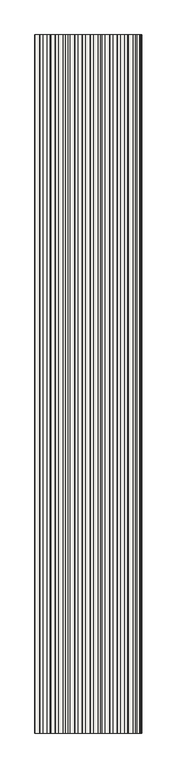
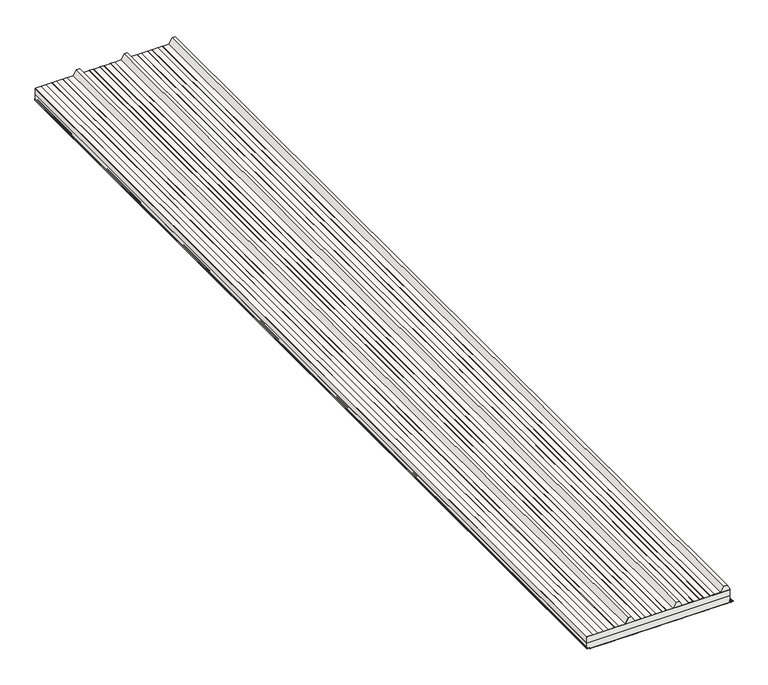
"""IFC4 building model written with IfcOpenShell, lengths in millimetres: covering geometry, Płyta warstwowa dachowa SPR CORE PIR (pojedynczy arkusz) : -."""

from ifc_helpers import new_model, si_unit, point, frame, frame_2d, origin, place, context, project, spatial, polyline, circle_curve, trimmed, segment, composite_curve, outline, extrude, source, transform, mapped, element, save
from ifc_brep_helpers import plane_surface, cylinder_surface, revolved_surface, advanced_brep


def covering_1a136c0f(model_context):
    return source(origin(), model_context, "Body", "SolidModel", [
        extrude(outline(composite_curve([segment(polyline([(-94.4480338, -31.6570556), (-95.0012185, -15.8167119)]), True, "CONTINUOUS"), segment(trimmed(circle_curve(frame_2d((-97.0, -15.8865144)), 2.0), [point((-95.0012185, -15.8167119))], [point((-99.0, -15.8865144))], True, "CARTESIAN"), True, "CONTINUOUS"), segment(polyline([(-99.0, -15.8865144), (-99.0, -35.0), (-100.0, -35.0), (-100.0, -15.8865144)]), True, "CONTINUOUS"), segment(trimmed(circle_curve(frame_2d((-97.0, -15.8865144)), 3.0), [point((-100.0, -15.8865144))], [point((-94.0018277, -15.7818107))], False, "CARTESIAN"), True, "CONTINUOUS"), segment(polyline([(-94.0018277, -15.7818107), (-93.448643, -31.6221543)]), True, "CONTINUOUS"), segment(trimmed(circle_curve(frame_2d((-89.9507754, -31.5)), 3.5), [point((-93.448643, -31.6221543))], [point((-89.9507754, -35.0))], True, "CARTESIAN"), True, "CONTINUOUS"), segment(polyline([(-89.9507754, -35.0), (-79.9507754, -35.0), (-79.9507754, -36.0), (-89.9507754, -36.0)]), True, "CONTINUOUS"), segment(trimmed(circle_curve(frame_2d((-89.9507754, -31.5)), 4.5), [point((-89.9507754, -36.0))], [point((-94.4480338, -31.6570556))], False, "CARTESIAN"), True, "CONTINUOUS")], self_intersect=False)), frame((0.0, -6999.9999824, 0.0), z_axis=(0.0, 1.0, 0.0), x_axis=(0.0, 0.0, 1.0)), (0.0, 0.0, 1.0), 6999.9999824),
        extrude(outline(composite_curve([segment(polyline([(-97.0, -1061.3739939), (-94.2, -1061.3739939)]), True, "CONTINUOUS"), segment(trimmed(circle_curve(frame_2d((-94.2, -1063.3739939)), 2.0), [point((-94.2, -1061.3739939))], [point((-92.2012183, -1063.3041949))], False, "CARTESIAN"), True, "CONTINUOUS"), segment(polyline([(-92.2012183, -1063.3041949), (-91.5931411, -1080.7172487)]), True, "CONTINUOUS"), segment(trimmed(circle_curve(frame_2d((-89.094664, -1080.63)), 2.5), [point((-91.5931411, -1080.7172487))], [point((-89.094664, -1083.13))], True, "CARTESIAN"), True, "CONTINUOUS"), segment(polyline([(-89.094664, -1083.13), (-79.1749818, -1083.13), (-79.1749818, -1084.13), (-89.094664, -1084.13)]), True, "CONTINUOUS"), segment(trimmed(circle_curve(frame_2d((-89.094664, -1080.63)), 3.5), [point((-89.094664, -1084.13))], [point((-92.5925319, -1080.7521482))], False, "CARTESIAN"), True, "CONTINUOUS"), segment(polyline([(-92.5925319, -1080.7521482), (-93.2006092, -1063.3390944)]), True, "CONTINUOUS"), segment(trimmed(circle_curve(frame_2d((-94.2, -1063.3739939)), 1.0), [point((-93.2006092, -1063.3390944))], [point((-94.2, -1062.3739939))], True, "CARTESIAN"), True, "CONTINUOUS"), segment(polyline([(-94.2, -1062.3739939), (-97.0, -1062.3739939)]), True, "CONTINUOUS"), segment(trimmed(circle_curve(frame_2d((-97.0, -1059.3739939)), 3.0), [point((-97.0, -1062.3739939))], [point((-100.0, -1059.3739939))], False, "CARTESIAN"), True, "CONTINUOUS"), segment(polyline([(-100.0, -1059.3739939), (-99.0, -1059.3739939)]), True, "CONTINUOUS"), segment(trimmed(circle_curve(frame_2d((-97.0, -1059.3739939)), 2.0), [point((-99.0, -1059.3739939))], [point((-97.0, -1061.3739939))], True, "CARTESIAN"), True, "CONTINUOUS")], self_intersect=False)), frame((0.0, -6999.9999824, 0.0), z_axis=(0.0, 1.0, 0.0), x_axis=(0.0, 0.0, 1.0)), (0.0, 0.0, 1.0), 6999.9999824),
        extrude(outline(polyline([(-100.4, -548.3073277), (-99.9954731, -536.4823277), (-100.4, -524.6573277), (-99.9954731, -512.8323277), (-100.4, -501.0073277), (-99.9954731, -489.1823277), (-100.4, -477.3573277), (-99.9954731, -465.5323277), (-100.4, -453.7073277), (-99.9954731, -441.8823277), (-100.4, -430.0573277), (-99.9954731, -418.2323277), (-100.4, -406.4073277), (-99.9954731, -394.5823277), (-100.4, -382.7573277), (-99.9954731, -370.9323277), (-100.4, -359.1073277), (-99.9954731, -347.2823277), (-100.4, -335.4573277), (-99.9954731, -323.6323277), (-100.4, -311.8073277), (-99.9954731, -299.9823277), (-100.4, -288.1573277), (-99.9954731, -276.3323277), (-100.4, -264.5073277), (-99.9954731, -252.6823277), (-100.4, -240.8573277), (-99.9954731, -229.0323277), (-100.4, -217.2073277), (-99.9954731, -205.3823277), (-100.4, -193.5573277), (-99.9954731, -181.7323277), (-100.4, -169.9073277), (-99.9954731, -158.0823277), (-100.4, -146.2573277), (-99.9954731, -134.4323277), (-100.4, -122.6073277), (-99.9954731, -110.7823277), (-100.4, -98.9573277), (-99.9954731, -87.1323277), (-100.4, -75.3073277), (-99.9954731, -63.4823277), (-100.4, -51.6573277), (-99.9954731, -39.8323277), (-100.1607845, -35.0), (-99.0, -35.0), (-99.0, -1059.3769939), (-100.093289, -1059.3769939), (-99.9954731, -1056.5176723), (-100.4, -1044.6926723), (-99.9954731, -1032.8676723), (-100.4, -1021.0426723), (-99.9954731, -1009.2176723), (-100.4, -997.3926723), (-99.9954731, -985.5676723), (-100.4, -973.7426723), (-99.9954731, -961.9176723), (-100.4, -950.0926723), (-99.9954731, -938.2676723), (-100.4, -926.4426723), (-99.9954731, -914.6176723), (-100.4, -902.7926723), (-99.9954731, -890.9676723), (-100.4, -879.1426723), (-99.9954731, -867.3176723), (-100.4, -855.4926723), (-99.9954731, -843.6676723), (-100.4, -831.8426723), (-99.9954731, -820.0176723), (-100.4, -808.1926723), (-99.9954731, -796.3676723), (-100.4, -784.5426723), (-99.9954731, -772.7176723), (-100.4, -760.8926723), (-99.9954731, -749.0676723), (-100.4, -737.2426723), (-99.9954731, -725.4176723), (-100.4, -713.5926723), (-99.9954731, -701.7676723), (-100.4, -689.9426723), (-99.9954731, -678.1176723), (-100.4, -666.2926723), (-99.9954731, -654.4676723), (-100.4, -642.6426723), (-99.9954731, -630.8176723), (-100.4, -618.9926723), (-99.9954731, -607.1676723), (-100.4, -595.3426723), (-99.9954731, -583.5176723), (-100.4, -571.6926723), (-100.0, -560.0), (-100.4, -548.3073277)])), frame((0.0, -6999.9999824, 0.0), z_axis=(0.0, 1.0, 0.0), x_axis=(0.0, 0.0, 1.0)), (0.0, 0.0, 1.0), 6999.9999824),
        extrude(outline(polyline([(-1.0, -33.1332395), (0.0, -33.1332395), (0.0, -34.1332395), (40.0, -57.2443504), (40.0, -79.7110315), (0.0, -102.8221424), (0.0, -148.5756209), (1.0, -150.8678342), (1.0, -181.1627485), (0.0, -183.4549619), (0.0, -226.0380205), (1.0, -228.3302338), (1.0, -258.6251481), (0.0, -260.9173615), (0.0, -303.5004201), (1.0, -305.7926334), (1.0, -336.0875477), (0.0, -338.379761), (0.0, -384.1332395), (40.0, -407.2443504), (40.0, -429.7110315), (0.0, -452.8221424), (0.0, -498.5756209), (1.0, -500.8678342), (1.0, -531.1627485), (0.0, -533.4549619), (0.0, -576.0380205), (1.0, -578.3302338), (1.0, -608.6251481), (0.0, -610.9173615), (0.0, -653.5004201), (1.0, -655.7926334), (1.0, -686.0875477), (0.0, -688.379761), (0.0, -734.1332395), (40.0, -757.2443504), (40.0, -779.7110315), (0.0, -802.8221424), (0.0, -848.5756209), (1.0, -850.8678342), (1.0, -881.1627485), (0.0, -883.4549619), (0.0, -926.0380205), (1.0, -928.3302338), (1.0, -958.6251481), (0.0, -960.9173615), (0.0, -1003.5004201), (1.0, -1005.7926334), (1.0, -1036.0875477), (0.0, -1038.379761), (0.0, -1083.133), (-1.0, -1083.133), (-1.0, -33.1332395)])), frame((0.0, -6999.9999824, 0.0), z_axis=(0.0, 1.0, 0.0), x_axis=(0.0, 0.0, 1.0)), (0.0, 0.0, 1.0), 6999.9999824),
        advanced_brep(
        [(-35.0, -6999.9999824, -99.0), (-15.8865144, -6999.9999824, -99.0), (-15.8167119, -6999.9999824, -95.0012185), (-31.6570556, -6999.9999824, -94.4480338), (-36.0, -6999.9999824, -89.9507754), (-36.0, -6999.9999824, -50.0), (-1083.133, -6999.9999824, -50.0), (-1083.133, -6999.9999824, -89.094664), (-1080.7202487, -6999.9999824, -91.5931411), (-1063.3071949, -6999.9999824, -92.2012183), (-1061.3769939, -6999.9999824, -94.2), (-1061.3769939, -6999.9999824, -97.0), (-1059.3769939, -6999.9999824, -99.0), (-15.8865144, 0.0, -99.0), (-35.0, 0.0, -99.0), (-1059.3769939, 0.0, -99.0), (-1061.3769939, 0.0, -97.0), (-1061.3769939, 0.0, -94.2), (-1063.3071949, 0.0, -92.2012183), (-1080.7202487, 0.0, -91.5931411), (-1083.133, 0.0, -89.094664), (-1083.133, 0.0, -50.0), (-36.0, 0.0, -50.0), (-36.0, 0.0, -89.9507754), (-31.6570556, 0.0, -94.4480338), (-15.8167119, 0.0, -95.0012185)],
        [
            (0, 1),
            (1, 2, circle_curve(frame((-15.8865144, -6999.9999824, -97.0), z_axis=(0.0, -1.0, 0.0), x_axis=(-1.0, 0.0, 0.0)), 2.0)),
            (2, 3),
            (3, 4, circle_curve(frame((-31.5, -6999.9999824, -89.9507754), z_axis=(0.0, 1.0, 0.0), x_axis=(-1.0, 0.0, 0.0)), 4.5)),
            (4, 5),
            (5, 6),
            (6, 7),
            (7, 8, circle_curve(frame((-1080.633, -6999.9999824, -89.094664), z_axis=(0.0, -1.0, 0.0), x_axis=(-1.0, 0.0, 0.0)), 2.5)),
            (8, 9),
            (9, 10, circle_curve(frame((-1063.3769939, -6999.9999824, -94.2), z_axis=(0.0, 1.0, 0.0), x_axis=(-1.0, 0.0, 0.0)), 2.0)),
            (10, 11),
            (11, 12, circle_curve(frame((-1059.3769939, -6999.9999824, -97.0), z_axis=(0.0, -1.0, 0.0), x_axis=(-1.0, 0.0, 0.0)), 2.0)),
            (12, 0),
            (13, 14),
            (14, 15),
            (15, 16, circle_curve(frame((-1059.3769939, 0.0, -97.0), z_axis=(0.0, 1.0, 0.0), x_axis=(-1.0, 0.0, 0.0)), 2.0)),
            (16, 17),
            (17, 18, circle_curve(frame((-1063.3769939, 0.0, -94.2), z_axis=(0.0, -1.0, 0.0), x_axis=(-1.0, 0.0, 0.0)), 2.0)),
            (18, 19),
            (19, 20, circle_curve(frame((-1080.633, 0.0, -89.094664), z_axis=(0.0, 1.0, 0.0), x_axis=(-1.0, 0.0, 0.0)), 2.5)),
            (20, 21),
            (21, 22),
            (22, 23),
            (23, 24, circle_curve(frame((-31.5, 0.0, -89.9507754), z_axis=(0.0, -1.0, 0.0), x_axis=(-1.0, 0.0, 0.0)), 4.5)),
            (24, 25),
            (25, 13, circle_curve(frame((-15.8865144, 0.0, -97.0), z_axis=(0.0, 1.0, 0.0), x_axis=(-1.0, 0.0, 0.0)), 2.0)),
            (5, 22),
            (21, 6),
            (12, 15),
            (13, 1),
            (3, 24),
            (23, 4),
            (2, 25),
            (7, 20),
            (19, 8),
            (11, 16),
            (10, 17),
            (9, 18),
        ],
        [
            plane_surface(frame((-1085.0, -6999.9999824, -50.0), z_axis=(0.0, -1.0, 0.0), x_axis=(-1.0, 0.0, 0.0))),
            plane_surface(frame((-1085.0, 0.0, -50.0), z_axis=(0.0, 1.0, 0.0), x_axis=(1.0, 0.0, 0.0))),
            plane_surface(frame((5.0, -6999.9999824, -50.0), z_axis=(0.0, 0.0, 1.0), x_axis=(0.0, 1.0, 0.0))),
            plane_surface(frame((-1085.0, -6999.9999824, -99.0), z_axis=(0.0, 0.0, -1.0), x_axis=(0.0, 1.0, 0.0))),
            revolved_surface(polyline([(-36.0, -6999.9999824, -89.9507754), (-36.0, 0.0, -89.9507754)]), (-31.5, -6999.9999824, -89.9507754), (0.0, -1.0, 0.0)),
            plane_surface(frame((-31.6570556, -6999.9999824, -94.4480338), z_axis=(0.034901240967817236, 0.0, 0.9993907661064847), x_axis=(0.0, 1.0, 0.0))),
            cylinder_surface(frame((-15.8865144, -6999.9999824, -97.0), z_axis=(0.0, 1.0, 0.0), x_axis=(-1.0, 0.0, 0.0)), 2.0),
            plane_surface(frame((-36.0, -6999.9999824, -1.0), z_axis=(1.0, 0.0, 0.0), x_axis=(0.0, 1.0, 0.0))),
            cylinder_surface(frame((-1080.633, -6999.9999824, -89.094664), z_axis=(0.0, 1.0, 0.0), x_axis=(-1.0, 0.0, 0.0)), 2.5),
            plane_surface(frame((-1083.133, -6999.9999824, -89.094664), z_axis=(-1.0, 0.0, 0.0), x_axis=(0.0, 1.0, 0.0))),
            cylinder_surface(frame((-1059.3769939, -6999.9999824, -97.0), z_axis=(0.0, 1.0, 0.0), x_axis=(-1.0, 0.0, 0.0)), 2.0),
            plane_surface(frame((-1061.3769939, -6999.9999824, -97.0), z_axis=(-1.0, 0.0, 0.0), x_axis=(0.0, 1.0, 0.0))),
            revolved_surface(polyline([(-1065.3769939, -6999.9999824, -94.2), (-1065.3769939, 0.0, -94.2)]), (-1063.3769939, -6999.9999824, -94.2), (0.0, -1.0, 0.0)),
            plane_surface(frame((-1063.3071949, -6999.9999824, -92.2012183), z_axis=(-0.03489949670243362, 0.0, -0.9993908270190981), x_axis=(0.0, 1.0, 0.0))),
        ],
        [
            (0, [[1, 2, 3, 4, 5, 6, 7, 8, 9, 10, 11, 12, 13]]),
            (1, [[14, 15, 16, 17, 18, 19, 20, 21, 22, 23, 24, 25, 26]]),
            (2, [[27, -22, 28, -6]]),
            (3, [[-1, -13, 29, -15, -14, 30]]),
            (4, [[31, -24, 32, -4]]),
            (5, [[-31, -3, 33, -25]]),
            (6, [[-33, -2, -30, -26]]),
            (7, [[-32, -23, -27, -5]]),
            (8, [[34, -20, 35, -8]]),
            (9, [[-34, -7, -28, -21]]),
            (10, [[36, -16, -29, -12]]),
            (11, [[-36, -11, 37, -17]]),
            (12, [[-37, -10, 38, -18]]),
            (13, [[-35, -19, -38, -9]]),
        ],
    ),
        extrude(outline(polyline([(-36.0, 0.0), (-36.0, -6999.9999824), (-1083.133, -6999.9999824), (-1083.133, 0.0), (-36.0, 0.0)])), frame((0.0, 0.0, -50.0), z_axis=(0.0, 0.0, 1.0), x_axis=(1.0, 0.0, 0.0)), (0.0, 0.0, 1.0), 49.0),
    ])


if __name__ == "__main__":
    model = new_model("IFC4")
    model_context = context("Model", 3, world=origin())
    ifc_project = project(units=[si_unit("LENGTHUNIT", "METRE", prefix="MILLI")], contexts=[model_context])
    site = spatial("IfcSite", under=ifc_project)
    building = spatial("IfcBuilding", under=site)
    placement = place(None, origin())
    covering_shape = covering_1a136c0f(model_context)
    element("IfcCovering", 1, ObjectType="Płyta warstwowa dachowa SPR CORE PIR (pojedynczy arkusz) : -", at=placement, inside=building, context=model_context, shape_type="MappedRepresentation", body=[
        mapped(covering_shape, transform((0.0, 0.0, 0.0), x_axis=(1.0, 0.0, 0.0), y_axis=(0.0, 1.0, 0.0), z_axis=(0.0, 0.0, 1.0))),
    ])
    save(model, "model.ifc")
